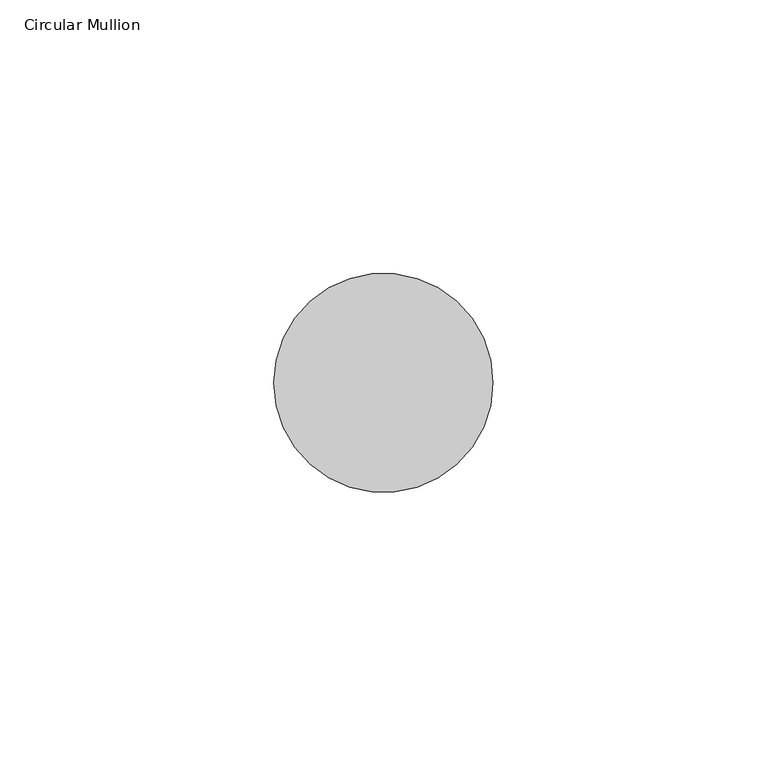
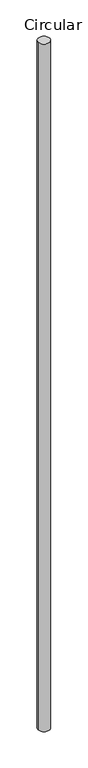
"""IFC4 building model written with IfcOpenShell, lengths in millimetres: member geometry, Circular Mullion : GRADIL 40mm."""

from ifc_helpers import new_model, si_unit, point, frame, frame_2d, origin, place, context, project, spatial, circle_curve, trimmed, segment, composite_curve, outline, extrude, source, transform, mapped, element, save


def circular_mullion_bf9e67b6(model_context):
    return source(origin(), model_context, "Body", "SweptSolid", [
        extrude(outline(composite_curve([segment(trimmed(circle_curve(frame_2d((-20.0, 0.0)), 20.0), [point((0.0, 0.0))], [point((-40.0, 0.0))], False, "CARTESIAN"), True, "CONTINUOUS"), segment(trimmed(circle_curve(frame_2d((-20.0, 0.0)), 20.0), [point((-40.0, 0.0))], [point((0.0, 0.0))], False, "CARTESIAN"), True, "CONTINUOUS")], self_intersect=False)), frame((0.0, 0.0, -2463.2063533), z_axis=(0.0, 0.0, 1.0), x_axis=(1.0, 0.0, 0.0)), (0.0, 0.0, 1.0), 2463.2063533),
    ])


if __name__ == "__main__":
    model = new_model("IFC4")
    model_context = context("Model", 3, world=origin())
    ifc_project = project(units=[si_unit("LENGTHUNIT", "METRE", prefix="MILLI")], contexts=[model_context])
    site = spatial("IfcSite", under=ifc_project)
    building = spatial("IfcBuilding", under=site)
    placement = place(None, origin())
    circular_mullion_shape = circular_mullion_bf9e67b6(model_context)
    element("IfcMember", 1, ObjectType="Circular Mullion : GRADIL 40mm", at=placement, inside=building, context=model_context, shape_type="MappedRepresentation", body=[
        mapped(circular_mullion_shape, transform((0.0, 0.0, 0.0), x_axis=(1.0, 0.0, 0.0), y_axis=(0.0, 1.0, 0.0), z_axis=(0.0, 0.0, 1.0))),
    ])
    save(model, "model.ifc")
